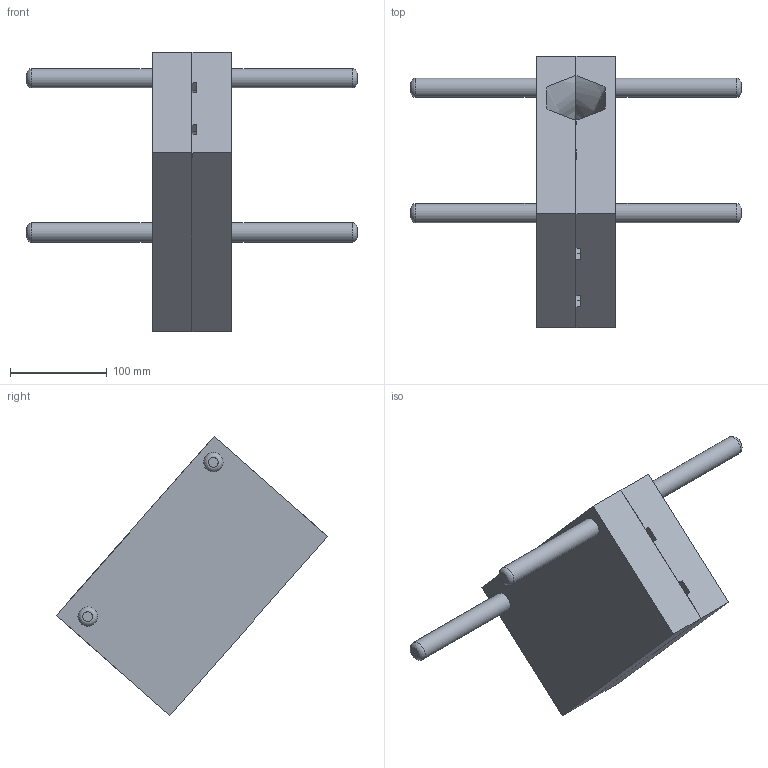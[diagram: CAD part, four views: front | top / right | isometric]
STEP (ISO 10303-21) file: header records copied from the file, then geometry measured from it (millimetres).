
FILE_DESCRIPTION(/* description */ (''),/* implementation_level */ '2;1');
FILE_NAME(/* name */ 'HEAD TUBE LUG DOWN.step',/* time_stamp */ '2023-08-21T09:15:38+02:00',/* author */ (''),/* organization */ (''),/* preprocessor_version */ 'ST-DEVELOPER v20',/* originating_system */ 'Autodesk Translation Framework v12.9.0.99',/* authorisation */ '');
FILE_SCHEMA (('AUTOMOTIVE_DESIGN { 1 0 10303 214 3 1 1 }'));
Length unit declared in the file: millimetre
Products named in the file (17): HEAD TUBE LUG DOWN; E_1200_2_5x12_1 v1; NOYAU SABLE; NOYAU HAUT; HTLD SORTIE FONDERIE; PLAQUETTE BUTEE; HTLD SORTIE USINAGE; NOYAU BAS; E_1300_5x16_1 v1; MOULE GAUCHE; MOULE DROITE; POIGNEES HTLD v2; POIGNEES FONDERIE v1; POIGNEE DE GUIDAGE; POIGNEE SIMPLE; POIGNEE DE GUIDAGE (1); POIGNEE SIMPLE (1)
Assembly tree (19 placements, depth 4):
  HEAD TUBE LUG DOWN
    E_1200_2_5x12_1 v1
    NOYAU SABLE
    NOYAU HAUT
    HTLD SORTIE FONDERIE
    PLAQUETTE BUTEE
    HTLD SORTIE USINAGE
    NOYAU BAS
    E_1300_5x16_1 v1  x4
    MOULE GAUCHE
    MOULE DROITE
    POIGNEES HTLD v2
      POIGNEES FONDERIE v1
        POIGNEE DE GUIDAGE
        POIGNEE SIMPLE
        POIGNEE DE GUIDAGE (1)
        POIGNEE SIMPLE (1)
Bounding box: 340.45 x 279.76 x 287.77 mm (x, y, z)
Volume: 3236259.8 mm3; surface area: 374699.5 mm2
Topology: 17 solids, 17 shells, 282 faces, 719 edges, 469 vertices
Faces by surface type: plane 98, cylinder 86, bspline 37, cone 27, sphere 20, torus 14
Full cylindrical faces by diameter (mm): 2.075 x1, 2.5 x1, 3 x1, 4.4 x1, 5 x8, 8 x1, 9.7 x2, 10 x10, 10.274 x4, 11.834 x4, 12 x1, 20 x6, 35.7 x1, 38.3 x5, 40.3 x1, 48.3 x4
Entity records: 11941 total; most frequent: CARTESIAN_POINT 4891, DIRECTION 1432, ORIENTED_EDGE 1358, EDGE_CURVE 679, AXIS2_PLACEMENT_3D 585, VERTEX_POINT 448, EDGE_LOOP 297, FACE_OUTER_BOUND 264
